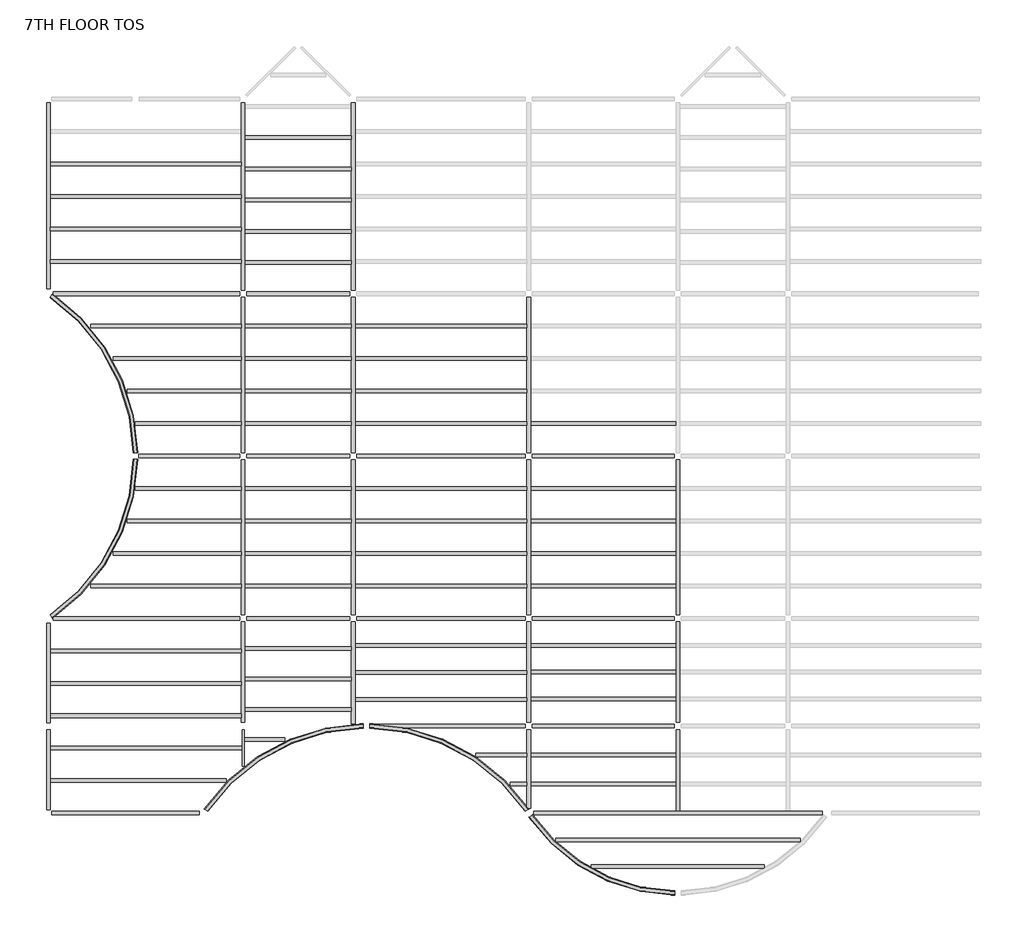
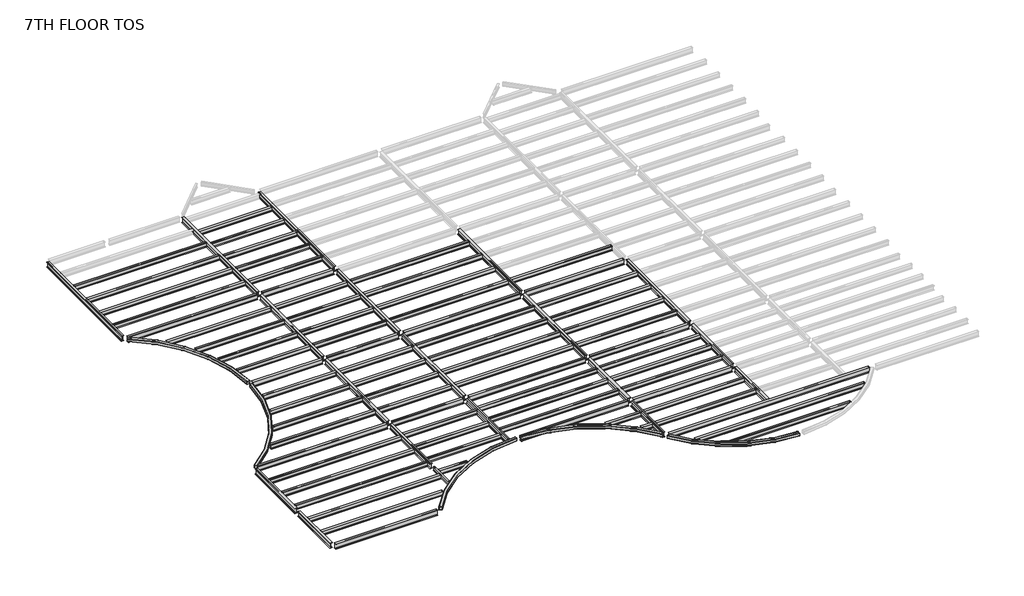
# One storey, part 1 of 2: 97 beams.
"""IFC4 building model written with IfcOpenShell, lengths in millimetres."""

from ifc_helpers import new_model, si_unit, origin, place, context, project, spatial, transform, mapped, element, save
from components import m_hss_square_hss203_2x203_2x9_5_914ff4eb, m_hss_square_hss203_2x203_2x9_5_0e3d8e6e, m_hss_square_hss203_2x203_2x9_5_16dc1c03, m_hss_square_hss203_2x203_2x9_5_18346204, m_hss_square_hss203_2x203_2x9_5_d5f1e8c4, ub_universal_beams_ub254x102x28_4e7f3726, ub_universal_beams_ub305x165x40_c4d0385b, ub_universal_beams_ub305x165x40_d3abc31d, ub_universal_beams_ub305x165x40_0c73730f, ub_universal_beams_ub305x165x40_2a963f0c, ub_universal_beams_ub305x165x40_0a5f2f96, ub_universal_beams_ub305x165x40_d1f7c369, ub_universal_beams_ub305x165x40_83d7b7d5, ub_universal_beams_ub305x165x40_729a4ea5, ub_universal_beams_ub305x165x40_71dfa851, ub_universal_beams_ub305x165x40_619b5398, ub_universal_beams_ub305x165x40_c3492db1, ub_universal_beams_ub305x165x40_8f1c350d, ub_universal_beams_ub305x165x40_3afb5f90, ub_universal_beams_ub305x165x40_767d1929, ub_universal_beams_ub305x165x40_5941ca45, ub_universal_beams_ub356x171x51_ef72dcdd, ub_universal_beams_ub356x171x51_7f80702c, ub_universal_beams_ub356x171x51_dfc36663, ub_universal_beams_ub356x171x51_405a853e, ub_universal_beams_ub356x171x51_e47b7055, ub_universal_beams_ub356x171x51_e97f8d2e, ub_universal_beams_ub356x171x51_11d6b780, ub_universal_beams_ub356x171x51_76b2d20b, ub_universal_beams_ub356x171x51_145ecd4b, ub_universal_beams_ub356x171x51_c7dff8d2, ub_universal_beams_ub356x171x51_834c6e34, ub_universal_beams_ub356x171x51_a38b99de, ub_universal_beams_ub356x171x51_d8f4cdde, ub_universal_beams_ub356x171x51_8094f821, ub_universal_beams_ub356x171x51_c03c70fb, ub_universal_beams_ub356x171x51_e661f2e4, ub_universal_beams_ub356x171x51_3ee91673, ub_universal_beams_ub356x171x51_a871b283, ub_universal_beams_ub356x171x51_741bae58

model = new_model("IFC4")

# Units and contexts
model_context = context("Model", 3, world=origin())
ifc_project = project(units=[si_unit("LENGTHUNIT", "METRE", prefix="MILLI")], contexts=[model_context])

# Site, building, storey
site = spatial("IfcSite", under=ifc_project)
building = spatial("IfcBuilding", under=site)
storey = spatial("IfcBuildingStorey", under=building, Name="7TH FLOOR TOS", Elevation=31851.6)

# Beams
placement = place(None, origin())
m_hss_square_hss203_2x203_2x9_5_shape = m_hss_square_hss203_2x203_2x9_5_914ff4eb(model_context)
element("IfcBeam", 1, ObjectType="M_HSS Square : HSS203.2X203.2X9.5", at=placement, inside=storey, context=model_context, shape_type="MappedRepresentation", body=[
    mapped(m_hss_square_hss203_2x203_2x9_5_shape, transform((22710.575, 155.575, 31750.1), x_axis=(-0.552849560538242, 0.8332810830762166, 0.0), y_axis=(-0.8332810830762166, -0.552849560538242, 0.0), z_axis=(0.0, 0.0, 1.0))),
])
m_hss_square_hss203_2x203_2x9_5_2_shape = m_hss_square_hss203_2x203_2x9_5_0e3d8e6e(model_context)
element("IfcBeam", 2, ObjectType="M_HSS Square : HSS203.2X203.2X9.5", at=placement, inside=storey, context=model_context, shape_type="MappedRepresentation", body=[
    mapped(m_hss_square_hss203_2x203_2x9_5_2_shape, transform((155.575, 9299.575, 31750.1), x_axis=(0.8332810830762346, 0.5528495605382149, 0.0), y_axis=(-0.5528495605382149, 0.8332810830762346, 0.0), z_axis=(0.0, 0.0, 1.0))),
])
m_hss_square_hss203_2x203_2x9_5_3_shape = m_hss_square_hss203_2x203_2x9_5_16dc1c03(model_context)
element("IfcBeam", 3, ObjectType="M_HSS Square : HSS203.2X203.2X9.5", at=placement, inside=storey, context=model_context, shape_type="MappedRepresentation", body=[
    mapped(m_hss_square_hss203_2x203_2x9_5_3_shape, transform((155.575, 24539.575, 31750.1), x_axis=(0.8332810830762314, -0.5528495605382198, 0.0), y_axis=(0.5528495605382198, 0.8332810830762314, 0.0), z_axis=(0.0, 0.0, 1.0))),
])
m_hss_square_hss203_2x203_2x9_5_4_shape = m_hss_square_hss203_2x203_2x9_5_18346204(model_context)
element("IfcBeam", 4, ObjectType="M_HSS Square : HSS203.2X203.2X9.5", at=placement, inside=storey, context=model_context, shape_type="MappedRepresentation", body=[
    mapped(m_hss_square_hss203_2x203_2x9_5_4_shape, transform((29734.7266693, -3601.398624, 31750.1), x_axis=(-0.9999968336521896, -0.0025164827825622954, 0.0), y_axis=(0.0025164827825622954, -0.9999968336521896, 0.0), z_axis=(0.0, 0.0, 1.0))),
])
m_hss_square_hss203_2x203_2x9_5_5_shape = m_hss_square_hss203_2x203_2x9_5_d5f1e8c4(model_context)
element("IfcBeam", 5, ObjectType="M_HSS Square : HSS203.2X203.2X9.5", at=placement, inside=storey, context=model_context, shape_type="MappedRepresentation", body=[
    mapped(m_hss_square_hss203_2x203_2x9_5_5_shape, transform((15096.4572854, 4244.5731081, 31750.1), x_axis=(-0.9999997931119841, 0.0006432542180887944, 0.0), y_axis=(-0.0006432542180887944, -0.9999997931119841, 0.0), z_axis=(0.0, 0.0, 1.0))),
])
ub_universal_beams_ub254x102x28_shape = ub_universal_beams_ub254x102x28_4e7f3726(model_context)
element("IfcBeam", 6, ObjectType="UB-Universal Beams : UB254x102x28", at=placement, inside=storey, context=model_context, shape_type="MappedRepresentation", body=[
    mapped(ub_universal_beams_ub254x102x28_shape, transform((9299.575, 3210.915913, 31721.4), x_axis=(0.0, -1.0, 0.0), y_axis=(1.0, 0.0, 0.0), z_axis=(0.0, 0.0, 1.0))),
])
ub_universal_beams_ub305x165x40_shape = ub_universal_beams_ub305x165x40_c4d0385b(model_context)
element("IfcBeam", 7, ObjectType="UB-Universal Beams : UB305x165x40", at=placement, inside=storey, context=model_context, shape_type="MappedRepresentation", body=[
    mapped(ub_universal_beams_ub305x165x40_shape, transform((4727.575, 30635.575, 31699.9), x_axis=(1.0, 0.0, 0.0), y_axis=(0.0, 1.0, 0.0), z_axis=(0.0, 0.0, 1.0))),
])
element("IfcBeam", 8, ObjectType="UB-Universal Beams : UB305x165x40", at=placement, inside=storey, context=model_context, shape_type="MappedRepresentation", body=[
    mapped(ub_universal_beams_ub305x165x40_shape, transform((4727.575, 29111.575, 31699.9), x_axis=(1.0, 0.0, 0.0), y_axis=(0.0, 1.0, 0.0), z_axis=(0.0, 0.0, 1.0))),
])
element("IfcBeam", 9, ObjectType="UB-Universal Beams : UB305x165x40", at=placement, inside=storey, context=model_context, shape_type="MappedRepresentation", body=[
    mapped(ub_universal_beams_ub305x165x40_shape, transform((4727.575, 27587.575, 31699.9), x_axis=(1.0, 0.0, 0.0), y_axis=(0.0, 1.0, 0.0), z_axis=(0.0, 0.0, 1.0))),
])
element("IfcBeam", 10, ObjectType="UB-Universal Beams : UB305x165x40", at=placement, inside=storey, context=model_context, shape_type="MappedRepresentation", body=[
    mapped(ub_universal_beams_ub305x165x40_shape, transform((4727.575, 26063.575, 31699.9), x_axis=(1.0, 0.0, 0.0), y_axis=(0.0, 1.0, 0.0), z_axis=(0.0, 0.0, 1.0))),
])
element("IfcBeam", 11, ObjectType="UB-Universal Beams : UB305x165x40", at=placement, inside=storey, context=model_context, shape_type="MappedRepresentation", body=[
    mapped(ub_universal_beams_ub305x165x40_shape, transform((4727.575, 4727.575, 31699.9), x_axis=(-1.0, 0.0, 0.0), y_axis=(0.0, -1.0, 0.0), z_axis=(0.0, 0.0, 1.0))),
])
element("IfcBeam", 12, ObjectType="UB-Universal Beams : UB305x165x40", at=placement, inside=storey, context=model_context, shape_type="MappedRepresentation", body=[
    mapped(ub_universal_beams_ub305x165x40_shape, transform((4727.575, 6251.575, 31699.9), x_axis=(-1.0, 0.0, 0.0), y_axis=(0.0, -1.0, 0.0), z_axis=(0.0, 0.0, 1.0))),
])
element("IfcBeam", 13, ObjectType="UB-Universal Beams : UB305x165x40", at=placement, inside=storey, context=model_context, shape_type="MappedRepresentation", body=[
    mapped(ub_universal_beams_ub305x165x40_shape, transform((4727.575, 7775.575, 31699.9), x_axis=(-1.0, 0.0, 0.0), y_axis=(0.0, -1.0, 0.0), z_axis=(0.0, 0.0, 1.0))),
])
ub_universal_beams_ub305x165x40_2_shape = ub_universal_beams_ub305x165x40_d3abc31d(model_context)
element("IfcBeam", 14, ObjectType="UB-Universal Beams : UB305x165x40", at=placement, inside=storey, context=model_context, shape_type="MappedRepresentation", body=[
    mapped(ub_universal_beams_ub305x165x40_2_shape, transform((11885.575, 31870.825, 31699.9), x_axis=(1.0, 0.0, 0.0), y_axis=(0.0, 1.0, 0.0), z_axis=(0.0, 0.0, 1.0))),
])
element("IfcBeam", 15, ObjectType="UB-Universal Beams : UB305x165x40", at=placement, inside=storey, context=model_context, shape_type="MappedRepresentation", body=[
    mapped(ub_universal_beams_ub305x165x40_2_shape, transform((11885.575, 30404.575, 31699.9), x_axis=(1.0, 0.0, 0.0), y_axis=(0.0, 1.0, 0.0), z_axis=(0.0, 0.0, 1.0))),
])
element("IfcBeam", 16, ObjectType="UB-Universal Beams : UB305x165x40", at=placement, inside=storey, context=model_context, shape_type="MappedRepresentation", body=[
    mapped(ub_universal_beams_ub305x165x40_2_shape, transform((11885.575, 28938.325, 31699.9), x_axis=(1.0, 0.0, 0.0), y_axis=(0.0, 1.0, 0.0), z_axis=(0.0, 0.0, 1.0))),
])
element("IfcBeam", 17, ObjectType="UB-Universal Beams : UB305x165x40", at=placement, inside=storey, context=model_context, shape_type="MappedRepresentation", body=[
    mapped(ub_universal_beams_ub305x165x40_2_shape, transform((11885.575, 27472.075, 31699.9), x_axis=(1.0, 0.0, 0.0), y_axis=(0.0, 1.0, 0.0), z_axis=(0.0, 0.0, 1.0))),
])
element("IfcBeam", 18, ObjectType="UB-Universal Beams : UB305x165x40", at=placement, inside=storey, context=model_context, shape_type="MappedRepresentation", body=[
    mapped(ub_universal_beams_ub305x165x40_2_shape, transform((11885.575, 26005.825, 31699.9), x_axis=(1.0, 0.0, 0.0), y_axis=(0.0, 1.0, 0.0), z_axis=(0.0, 0.0, 1.0))),
])
element("IfcBeam", 19, ObjectType="UB-Universal Beams : UB305x165x40", at=placement, inside=storey, context=model_context, shape_type="MappedRepresentation", body=[
    mapped(ub_universal_beams_ub305x165x40_2_shape, transform((11885.575, 23015.575, 31699.9), x_axis=(1.0, 0.0, 0.0), y_axis=(0.0, 1.0, 0.0), z_axis=(0.0, 0.0, 1.0))),
])
element("IfcBeam", 20, ObjectType="UB-Universal Beams : UB305x165x40", at=placement, inside=storey, context=model_context, shape_type="MappedRepresentation", body=[
    mapped(ub_universal_beams_ub305x165x40_2_shape, transform((11885.575, 21491.575, 31699.9), x_axis=(1.0, 0.0, 0.0), y_axis=(0.0, 1.0, 0.0), z_axis=(0.0, 0.0, 1.0))),
])
element("IfcBeam", 21, ObjectType="UB-Universal Beams : UB305x165x40", at=placement, inside=storey, context=model_context, shape_type="MappedRepresentation", body=[
    mapped(ub_universal_beams_ub305x165x40_2_shape, transform((11885.575, 19967.575, 31699.9), x_axis=(1.0, 0.0, 0.0), y_axis=(0.0, 1.0, 0.0), z_axis=(0.0, 0.0, 1.0))),
])
element("IfcBeam", 22, ObjectType="UB-Universal Beams : UB305x165x40", at=placement, inside=storey, context=model_context, shape_type="MappedRepresentation", body=[
    mapped(ub_universal_beams_ub305x165x40_2_shape, transform((11885.575, 18443.575, 31699.9), x_axis=(1.0, 0.0, 0.0), y_axis=(0.0, 1.0, 0.0), z_axis=(0.0, 0.0, 1.0))),
])
element("IfcBeam", 23, ObjectType="UB-Universal Beams : UB305x165x40", at=placement, inside=storey, context=model_context, shape_type="MappedRepresentation", body=[
    mapped(ub_universal_beams_ub305x165x40_2_shape, transform((11885.575, 15395.575, 31699.9), x_axis=(1.0, 0.0, 0.0), y_axis=(0.0, 1.0, 0.0), z_axis=(0.0, 0.0, 1.0))),
])
element("IfcBeam", 24, ObjectType="UB-Universal Beams : UB305x165x40", at=placement, inside=storey, context=model_context, shape_type="MappedRepresentation", body=[
    mapped(ub_universal_beams_ub305x165x40_2_shape, transform((11885.575, 13871.575, 31699.9), x_axis=(1.0, 0.0, 0.0), y_axis=(0.0, 1.0, 0.0), z_axis=(0.0, 0.0, 1.0))),
])
element("IfcBeam", 25, ObjectType="UB-Universal Beams : UB305x165x40", at=placement, inside=storey, context=model_context, shape_type="MappedRepresentation", body=[
    mapped(ub_universal_beams_ub305x165x40_2_shape, transform((11885.575, 12347.575, 31699.9), x_axis=(1.0, 0.0, 0.0), y_axis=(0.0, 1.0, 0.0), z_axis=(0.0, 0.0, 1.0))),
])
element("IfcBeam", 26, ObjectType="UB-Universal Beams : UB305x165x40", at=placement, inside=storey, context=model_context, shape_type="MappedRepresentation", body=[
    mapped(ub_universal_beams_ub305x165x40_2_shape, transform((11885.575, 10823.575, 31699.9), x_axis=(1.0, 0.0, 0.0), y_axis=(0.0, 1.0, 0.0), z_axis=(0.0, 0.0, 1.0))),
])
element("IfcBeam", 27, ObjectType="UB-Universal Beams : UB305x165x40", at=placement, inside=storey, context=model_context, shape_type="MappedRepresentation", body=[
    mapped(ub_universal_beams_ub305x165x40_2_shape, transform((11885.575, 5026.1840956, 31699.9), x_axis=(-1.0, 0.0, 0.0), y_axis=(0.0, -1.0, 0.0), z_axis=(0.0, 0.0, 1.0))),
])
element("IfcBeam", 28, ObjectType="UB-Universal Beams : UB305x165x40", at=placement, inside=storey, context=model_context, shape_type="MappedRepresentation", body=[
    mapped(ub_universal_beams_ub305x165x40_2_shape, transform((11885.575, 6450.6477304, 31699.9), x_axis=(-1.0, 0.0, 0.0), y_axis=(0.0, -1.0, 0.0), z_axis=(0.0, 0.0, 1.0))),
])
element("IfcBeam", 29, ObjectType="UB-Universal Beams : UB305x165x40", at=placement, inside=storey, context=model_context, shape_type="MappedRepresentation", body=[
    mapped(ub_universal_beams_ub305x165x40_2_shape, transform((11885.575, 7875.1113652, 31699.9), x_axis=(-1.0, 0.0, 0.0), y_axis=(0.0, -1.0, 0.0), z_axis=(0.0, 0.0, 1.0))),
])
ub_universal_beams_ub305x165x40_3_shape = ub_universal_beams_ub305x165x40_0c73730f(model_context)
element("IfcBeam", 30, ObjectType="UB-Universal Beams : UB305x165x40", at=placement, inside=storey, context=model_context, shape_type="MappedRepresentation", body=[
    mapped(ub_universal_beams_ub305x165x40_3_shape, transform((18591.075, 5492.5943214, 31699.9), x_axis=(-1.0, 0.0, 0.0), y_axis=(0.0, -1.0, 0.0), z_axis=(0.0, 0.0, 1.0))),
])
element("IfcBeam", 31, ObjectType="UB-Universal Beams : UB305x165x40", at=placement, inside=storey, context=model_context, shape_type="MappedRepresentation", body=[
    mapped(ub_universal_beams_ub305x165x40_3_shape, transform((18591.075, 6761.5878809, 31699.9), x_axis=(-1.0, 0.0, 0.0), y_axis=(0.0, -1.0, 0.0), z_axis=(0.0, 0.0, 1.0))),
])
element("IfcBeam", 32, ObjectType="UB-Universal Beams : UB305x165x40", at=placement, inside=storey, context=model_context, shape_type="MappedRepresentation", body=[
    mapped(ub_universal_beams_ub305x165x40_3_shape, transform((18591.075, 8030.5814405, 31699.9), x_axis=(-1.0, 0.0, 0.0), y_axis=(0.0, -1.0, 0.0), z_axis=(0.0, 0.0, 1.0))),
])
element("IfcBeam", 33, ObjectType="UB-Universal Beams : UB305x165x40", at=placement, inside=storey, context=model_context, shape_type="MappedRepresentation", body=[
    mapped(ub_universal_beams_ub305x165x40_3_shape, transform((18591.075, 15395.575, 31699.9), x_axis=(1.0, 0.0, 0.0), y_axis=(0.0, 1.0, 0.0), z_axis=(0.0, 0.0, 1.0))),
])
element("IfcBeam", 34, ObjectType="UB-Universal Beams : UB305x165x40", at=placement, inside=storey, context=model_context, shape_type="MappedRepresentation", body=[
    mapped(ub_universal_beams_ub305x165x40_3_shape, transform((18591.075, 13871.575, 31699.9), x_axis=(1.0, 0.0, 0.0), y_axis=(0.0, 1.0, 0.0), z_axis=(0.0, 0.0, 1.0))),
])
element("IfcBeam", 35, ObjectType="UB-Universal Beams : UB305x165x40", at=placement, inside=storey, context=model_context, shape_type="MappedRepresentation", body=[
    mapped(ub_universal_beams_ub305x165x40_3_shape, transform((18591.075, 12347.575, 31699.9), x_axis=(1.0, 0.0, 0.0), y_axis=(0.0, 1.0, 0.0), z_axis=(0.0, 0.0, 1.0))),
])
element("IfcBeam", 36, ObjectType="UB-Universal Beams : UB305x165x40", at=placement, inside=storey, context=model_context, shape_type="MappedRepresentation", body=[
    mapped(ub_universal_beams_ub305x165x40_3_shape, transform((18591.075, 10823.575, 31699.9), x_axis=(1.0, 0.0, 0.0), y_axis=(0.0, 1.0, 0.0), z_axis=(0.0, 0.0, 1.0))),
])
element("IfcBeam", 37, ObjectType="UB-Universal Beams : UB305x165x40", at=placement, inside=storey, context=model_context, shape_type="MappedRepresentation", body=[
    mapped(ub_universal_beams_ub305x165x40_3_shape, transform((18591.075, 23015.575, 31699.9), x_axis=(1.0, 0.0, 0.0), y_axis=(0.0, 1.0, 0.0), z_axis=(0.0, 0.0, 1.0))),
])
element("IfcBeam", 38, ObjectType="UB-Universal Beams : UB305x165x40", at=placement, inside=storey, context=model_context, shape_type="MappedRepresentation", body=[
    mapped(ub_universal_beams_ub305x165x40_3_shape, transform((18591.075, 21491.575, 31699.9), x_axis=(1.0, 0.0, 0.0), y_axis=(0.0, 1.0, 0.0), z_axis=(0.0, 0.0, 1.0))),
])
element("IfcBeam", 39, ObjectType="UB-Universal Beams : UB305x165x40", at=placement, inside=storey, context=model_context, shape_type="MappedRepresentation", body=[
    mapped(ub_universal_beams_ub305x165x40_3_shape, transform((18591.075, 19967.575, 31699.9), x_axis=(1.0, 0.0, 0.0), y_axis=(0.0, 1.0, 0.0), z_axis=(0.0, 0.0, 1.0))),
])
element("IfcBeam", 40, ObjectType="UB-Universal Beams : UB305x165x40", at=placement, inside=storey, context=model_context, shape_type="MappedRepresentation", body=[
    mapped(ub_universal_beams_ub305x165x40_3_shape, transform((18591.075, 18443.575, 31699.9), x_axis=(1.0, 0.0, 0.0), y_axis=(0.0, 1.0, 0.0), z_axis=(0.0, 0.0, 1.0))),
])
ub_universal_beams_ub305x165x40_4_shape = ub_universal_beams_ub305x165x40_2a963f0c(model_context)
element("IfcBeam", 41, ObjectType="UB-Universal Beams : UB305x165x40", at=placement, inside=storey, context=model_context, shape_type="MappedRepresentation", body=[
    mapped(ub_universal_beams_ub305x165x40_4_shape, transform((26211.075, 18443.575, 31699.9), x_axis=(1.0, 0.0, 0.0), y_axis=(0.0, 1.0, 0.0), z_axis=(0.0, 0.0, 1.0))),
])
element("IfcBeam", 42, ObjectType="UB-Universal Beams : UB305x165x40", at=placement, inside=storey, context=model_context, shape_type="MappedRepresentation", body=[
    mapped(ub_universal_beams_ub305x165x40_4_shape, transform((26211.075, 15395.575, 31699.9), x_axis=(1.0, 0.0, 0.0), y_axis=(0.0, 1.0, 0.0), z_axis=(0.0, 0.0, 1.0))),
])
element("IfcBeam", 43, ObjectType="UB-Universal Beams : UB305x165x40", at=placement, inside=storey, context=model_context, shape_type="MappedRepresentation", body=[
    mapped(ub_universal_beams_ub305x165x40_4_shape, transform((26211.075, 13871.575, 31699.9), x_axis=(1.0, 0.0, 0.0), y_axis=(0.0, 1.0, 0.0), z_axis=(0.0, 0.0, 1.0))),
])
element("IfcBeam", 44, ObjectType="UB-Universal Beams : UB305x165x40", at=placement, inside=storey, context=model_context, shape_type="MappedRepresentation", body=[
    mapped(ub_universal_beams_ub305x165x40_4_shape, transform((26211.075, 12347.575, 31699.9), x_axis=(1.0, 0.0, 0.0), y_axis=(0.0, 1.0, 0.0), z_axis=(0.0, 0.0, 1.0))),
])
element("IfcBeam", 45, ObjectType="UB-Universal Beams : UB305x165x40", at=placement, inside=storey, context=model_context, shape_type="MappedRepresentation", body=[
    mapped(ub_universal_beams_ub305x165x40_4_shape, transform((26211.075, 10823.575, 31699.9), x_axis=(1.0, 0.0, 0.0), y_axis=(0.0, 1.0, 0.0), z_axis=(0.0, 0.0, 1.0))),
])
element("IfcBeam", 46, ObjectType="UB-Universal Beams : UB305x165x40", at=placement, inside=storey, context=model_context, shape_type="MappedRepresentation", body=[
    mapped(ub_universal_beams_ub305x165x40_4_shape, transform((26211.075, 5508.325, 31699.9), x_axis=(-1.0, 0.0, 0.0), y_axis=(0.0, -1.0, 0.0), z_axis=(0.0, 0.0, 1.0))),
])
element("IfcBeam", 47, ObjectType="UB-Universal Beams : UB305x165x40", at=placement, inside=storey, context=model_context, shape_type="MappedRepresentation", body=[
    mapped(ub_universal_beams_ub305x165x40_4_shape, transform((26211.075, 6772.075, 31699.9), x_axis=(-1.0, 0.0, 0.0), y_axis=(0.0, -1.0, 0.0), z_axis=(0.0, 0.0, 1.0))),
])
element("IfcBeam", 48, ObjectType="UB-Universal Beams : UB305x165x40", at=placement, inside=storey, context=model_context, shape_type="MappedRepresentation", body=[
    mapped(ub_universal_beams_ub305x165x40_4_shape, transform((26211.075, 8035.825, 31699.9), x_axis=(-1.0, 0.0, 0.0), y_axis=(0.0, -1.0, 0.0), z_axis=(0.0, 0.0, 1.0))),
])
element("IfcBeam", 49, ObjectType="UB-Universal Beams : UB305x165x40", at=placement, inside=storey, context=model_context, shape_type="MappedRepresentation", body=[
    mapped(ub_universal_beams_ub305x165x40_4_shape, transform((26211.075, 1518.575, 31699.9), x_axis=(-1.0, 0.0, 0.0), y_axis=(0.0, -1.0, 0.0), z_axis=(0.0, 0.0, 1.0))),
])
element("IfcBeam", 50, ObjectType="UB-Universal Beams : UB305x165x40", at=placement, inside=storey, context=model_context, shape_type="MappedRepresentation", body=[
    mapped(ub_universal_beams_ub305x165x40_4_shape, transform((26211.075, 2881.575, 31699.9), x_axis=(-1.0, 0.0, 0.0), y_axis=(0.0, -1.0, 0.0), z_axis=(0.0, 0.0, 1.0))),
])
ub_universal_beams_ub305x165x40_5_shape = ub_universal_beams_ub305x165x40_0a5f2f96(model_context)
element("IfcBeam", 51, ObjectType="UB-Universal Beams : UB305x165x40", at=placement, inside=storey, context=model_context, shape_type="MappedRepresentation", body=[
    mapped(ub_universal_beams_ub305x165x40_5_shape, transform((29713.575, -2349.0918253, 31699.9), x_axis=(-1.0, 0.0, 0.0), y_axis=(0.0, -1.0, 0.0), z_axis=(0.0, 0.0, 1.0))),
])
ub_universal_beams_ub305x165x40_6_shape = ub_universal_beams_ub305x165x40_d1f7c369(model_context)
element("IfcBeam", 52, ObjectType="UB-Universal Beams : UB305x165x40", at=placement, inside=storey, context=model_context, shape_type="MappedRepresentation", body=[
    mapped(ub_universal_beams_ub305x165x40_6_shape, transform((29713.575, -1096.7584126, 31699.9), x_axis=(-1.0, 0.0, 0.0), y_axis=(0.0, -1.0, 0.0), z_axis=(0.0, 0.0, 1.0))),
])
ub_universal_beams_ub305x165x40_7_shape = ub_universal_beams_ub305x165x40_83d7b7d5(model_context)
element("IfcBeam", 53, ObjectType="UB-Universal Beams : UB305x165x40", at=placement, inside=storey, context=model_context, shape_type="MappedRepresentation", body=[
    mapped(ub_universal_beams_ub305x165x40_7_shape, transform((22157.3041106, 1518.575, 31699.9), x_axis=(-1.0, 0.0, 0.0), y_axis=(0.0, -1.0, 0.0), z_axis=(0.0, 0.0, 1.0))),
])
ub_universal_beams_ub305x165x40_8_shape = ub_universal_beams_ub305x165x40_729a4ea5(model_context)
element("IfcBeam", 54, ObjectType="UB-Universal Beams : UB305x165x40", at=placement, inside=storey, context=model_context, shape_type="MappedRepresentation", body=[
    mapped(ub_universal_beams_ub305x165x40_8_shape, transform((21302.1545844, 2881.575, 31699.9), x_axis=(-1.0, 0.0, 0.0), y_axis=(0.0, -1.0, 0.0), z_axis=(0.0, 0.0, 1.0))),
])
ub_universal_beams_ub305x165x40_9_shape = ub_universal_beams_ub305x165x40_71dfa851(model_context)
element("IfcBeam", 55, ObjectType="UB-Universal Beams : UB305x165x40", at=placement, inside=storey, context=model_context, shape_type="MappedRepresentation", body=[
    mapped(ub_universal_beams_ub305x165x40_9_shape, transform((10511.0323166, 3601.7204608, 31699.9), x_axis=(-1.0, 0.0, 0.0), y_axis=(0.0, -1.0, 0.0), z_axis=(0.0, 0.0, 1.0))),
])
ub_universal_beams_ub305x165x40_10_shape = ub_universal_beams_ub305x165x40_619b5398(model_context)
element("IfcBeam", 56, ObjectType="UB-Universal Beams : UB305x165x40", at=placement, inside=storey, context=model_context, shape_type="MappedRepresentation", body=[
    mapped(ub_universal_beams_ub305x165x40_10_shape, transform((4447.6838282, 1679.575, 31699.9), x_axis=(-1.0, 0.0, 0.0), y_axis=(0.0, -1.0, 0.0), z_axis=(0.0, 0.0, 1.0))),
])
ub_universal_beams_ub305x165x40_11_shape = ub_universal_beams_ub305x165x40_c3492db1(model_context)
element("IfcBeam", 57, ObjectType="UB-Universal Beams : UB305x165x40", at=placement, inside=storey, context=model_context, shape_type="MappedRepresentation", body=[
    mapped(ub_universal_beams_ub305x165x40_11_shape, transform((4727.575, 3203.575, 31699.9), x_axis=(-1.0, 0.0, 0.0), y_axis=(0.0, -1.0, 0.0), z_axis=(0.0, 0.0, 1.0))),
])
ub_universal_beams_ub305x165x40_12_shape = ub_universal_beams_ub305x165x40_8f1c350d(model_context)
element("IfcBeam", 58, ObjectType="UB-Universal Beams : UB305x165x40", at=placement, inside=storey, context=model_context, shape_type="MappedRepresentation", body=[
    mapped(ub_universal_beams_ub305x165x40_12_shape, transform((6708.1318611, 15395.575, 31699.9), x_axis=(1.0, 0.0, 0.0), y_axis=(0.0, 1.0, 0.0), z_axis=(0.0, 0.0, 1.0))),
])
element("IfcBeam", 59, ObjectType="UB-Universal Beams : UB305x165x40", at=placement, inside=storey, context=model_context, shape_type="MappedRepresentation", body=[
    mapped(ub_universal_beams_ub305x165x40_12_shape, transform((6708.1318611, 18443.575, 31699.9), x_axis=(1.0, 0.0, 0.0), y_axis=(0.0, 1.0, 0.0), z_axis=(0.0, 0.0, 1.0))),
])
ub_universal_beams_ub305x165x40_13_shape = ub_universal_beams_ub305x165x40_3afb5f90(model_context)
element("IfcBeam", 60, ObjectType="UB-Universal Beams : UB305x165x40", at=placement, inside=storey, context=model_context, shape_type="MappedRepresentation", body=[
    mapped(ub_universal_beams_ub305x165x40_13_shape, transform((6510.6153272, 13871.575, 31699.9), x_axis=(1.0, 0.0, 0.0), y_axis=(0.0, 1.0, 0.0), z_axis=(0.0, 0.0, 1.0))),
])
element("IfcBeam", 61, ObjectType="UB-Universal Beams : UB305x165x40", at=placement, inside=storey, context=model_context, shape_type="MappedRepresentation", body=[
    mapped(ub_universal_beams_ub305x165x40_13_shape, transform((6510.6153272, 19967.575, 31699.9), x_axis=(1.0, 0.0, 0.0), y_axis=(0.0, 1.0, 0.0), z_axis=(0.0, 0.0, 1.0))),
])
ub_universal_beams_ub305x165x40_14_shape = ub_universal_beams_ub305x165x40_767d1929(model_context)
element("IfcBeam", 62, ObjectType="UB-Universal Beams : UB305x165x40", at=placement, inside=storey, context=model_context, shape_type="MappedRepresentation", body=[
    mapped(ub_universal_beams_ub305x165x40_14_shape, transform((6159.5874928, 12347.575, 31699.9), x_axis=(1.0, 0.0, 0.0), y_axis=(0.0, 1.0, 0.0), z_axis=(0.0, 0.0, 1.0))),
])
element("IfcBeam", 63, ObjectType="UB-Universal Beams : UB305x165x40", at=placement, inside=storey, context=model_context, shape_type="MappedRepresentation", body=[
    mapped(ub_universal_beams_ub305x165x40_14_shape, transform((6159.5874928, 21491.575, 31699.9), x_axis=(1.0, 0.0, 0.0), y_axis=(0.0, 1.0, 0.0), z_axis=(0.0, 0.0, 1.0))),
])
ub_universal_beams_ub305x165x40_15_shape = ub_universal_beams_ub305x165x40_5941ca45(model_context)
element("IfcBeam", 64, ObjectType="UB-Universal Beams : UB305x165x40", at=placement, inside=storey, context=model_context, shape_type="MappedRepresentation", body=[
    mapped(ub_universal_beams_ub305x165x40_15_shape, transform((5607.9405309, 10823.575, 31699.9), x_axis=(1.0, 0.0, 0.0), y_axis=(0.0, 1.0, 0.0), z_axis=(0.0, 0.0, 1.0))),
])
element("IfcBeam", 65, ObjectType="UB-Universal Beams : UB305x165x40", at=placement, inside=storey, context=model_context, shape_type="MappedRepresentation", body=[
    mapped(ub_universal_beams_ub305x165x40_15_shape, transform((5607.9405309, 23015.575, 31699.9), x_axis=(1.0, 0.0, 0.0), y_axis=(0.0, 1.0, 0.0), z_axis=(0.0, 0.0, 1.0))),
])
ub_universal_beams_ub356x171x51_shape = ub_universal_beams_ub356x171x51_ef72dcdd(model_context)
element("IfcBeam", 66, ObjectType="UB-Universal Beams : UB356x171x51", at=placement, inside=storey, context=model_context, shape_type="MappedRepresentation", body=[
    mapped(ub_universal_beams_ub356x171x51_shape, transform((9299.575, 6772.075, 31674.1), x_axis=(0.0, -1.0, 0.0), y_axis=(1.0, 0.0, 0.0), z_axis=(0.0, 0.0, 1.0))),
])
element("IfcBeam", 67, ObjectType="UB-Universal Beams : UB356x171x51", at=placement, inside=storey, context=model_context, shape_type="MappedRepresentation", body=[
    mapped(ub_universal_beams_ub356x171x51_shape, transform((29711.575, 6772.075, 31674.1), x_axis=(0.0, 1.0, 0.0), y_axis=(-1.0, 0.0, 0.0), z_axis=(0.0, 0.0, 1.0))),
])
element("IfcBeam", 68, ObjectType="UB-Universal Beams : UB356x171x51", at=placement, inside=storey, context=model_context, shape_type="MappedRepresentation", body=[
    mapped(ub_universal_beams_ub356x171x51_shape, transform((22710.575, 6772.075, 31674.1), x_axis=(0.0, -1.0, 0.0), y_axis=(1.0, 0.0, 0.0), z_axis=(0.0, 0.0, 1.0))),
])
ub_universal_beams_ub356x171x51_2_shape = ub_universal_beams_ub356x171x51_7f80702c(model_context)
element("IfcBeam", 69, ObjectType="UB-Universal Beams : UB356x171x51", at=placement, inside=storey, context=model_context, shape_type="MappedRepresentation", body=[
    mapped(ub_universal_beams_ub356x171x51_2_shape, transform((3813.075, 155.575, 31674.1), x_axis=(-1.0, 0.0, 0.0), y_axis=(0.0, -1.0, 0.0), z_axis=(0.0, 0.0, 1.0))),
])
ub_universal_beams_ub356x171x51_3_shape = ub_universal_beams_ub356x171x51_dfc36663(model_context)
element("IfcBeam", 70, ObjectType="UB-Universal Beams : UB356x171x51", at=placement, inside=storey, context=model_context, shape_type="MappedRepresentation", body=[
    mapped(ub_universal_beams_ub356x171x51_3_shape, transform((155.575, 2200.075, 31674.1), x_axis=(0.0, 1.0, 0.0), y_axis=(-1.0, 0.0, 0.0), z_axis=(0.0, 0.0, 1.0))),
])
ub_universal_beams_ub356x171x51_4_shape = ub_universal_beams_ub356x171x51_405a853e(model_context)
element("IfcBeam", 71, ObjectType="UB-Universal Beams : UB356x171x51", at=placement, inside=storey, context=model_context, shape_type="MappedRepresentation", body=[
    mapped(ub_universal_beams_ub356x171x51_4_shape, transform((155.575, 6772.075, 31674.1), x_axis=(0.0, 1.0, 0.0), y_axis=(-1.0, 0.0, 0.0), z_axis=(0.0, 0.0, 1.0))),
])
ub_universal_beams_ub356x171x51_5_shape = ub_universal_beams_ub356x171x51_e47b7055(model_context)
element("IfcBeam", 72, ObjectType="UB-Universal Beams : UB356x171x51", at=placement, inside=storey, context=model_context, shape_type="MappedRepresentation", body=[
    mapped(ub_universal_beams_ub356x171x51_5_shape, transform((155.575, 29111.575, 31674.1), x_axis=(0.0, 1.0, 0.0), y_axis=(-1.0, 0.0, 0.0), z_axis=(0.0, 0.0, 1.0))),
])
ub_universal_beams_ub356x171x51_6_shape = ub_universal_beams_ub356x171x51_e97f8d2e(model_context)
element("IfcBeam", 73, ObjectType="UB-Universal Beams : UB356x171x51", at=placement, inside=storey, context=model_context, shape_type="MappedRepresentation", body=[
    mapped(ub_universal_beams_ub356x171x51_6_shape, transform((4727.575, 24539.575, 31674.1), x_axis=(1.0, 0.0, 0.0), y_axis=(0.0, 1.0, 0.0), z_axis=(0.0, 0.0, 1.0))),
])
ub_universal_beams_ub356x171x51_7_shape = ub_universal_beams_ub356x171x51_11d6b780(model_context)
element("IfcBeam", 74, ObjectType="UB-Universal Beams : UB356x171x51", at=placement, inside=storey, context=model_context, shape_type="MappedRepresentation", body=[
    mapped(ub_universal_beams_ub356x171x51_7_shape, transform((11885.575, 24539.575, 31674.1), x_axis=(1.0, 0.0, 0.0), y_axis=(0.0, 1.0, 0.0), z_axis=(0.0, 0.0, 1.0))),
])
element("IfcBeam", 75, ObjectType="UB-Universal Beams : UB356x171x51", at=placement, inside=storey, context=model_context, shape_type="MappedRepresentation", body=[
    mapped(ub_universal_beams_ub356x171x51_7_shape, transform((11885.575, 9299.575, 31674.1), x_axis=(-1.0, 0.0, 0.0), y_axis=(0.0, -1.0, 0.0), z_axis=(0.0, 0.0, 1.0))),
])
element("IfcBeam", 76, ObjectType="UB-Universal Beams : UB356x171x51", at=placement, inside=storey, context=model_context, shape_type="MappedRepresentation", body=[
    mapped(ub_universal_beams_ub356x171x51_7_shape, transform((11885.575, 16919.575, 31674.1), x_axis=(1.0, 0.0, 0.0), y_axis=(0.0, 1.0, 0.0), z_axis=(0.0, 0.0, 1.0))),
])
ub_universal_beams_ub356x171x51_8_shape = ub_universal_beams_ub356x171x51_76b2d20b(model_context)
element("IfcBeam", 77, ObjectType="UB-Universal Beams : UB356x171x51", at=placement, inside=storey, context=model_context, shape_type="MappedRepresentation", body=[
    mapped(ub_universal_beams_ub356x171x51_8_shape, transform((18591.075, 9299.575, 31674.1), x_axis=(-1.0, 0.0, 0.0), y_axis=(0.0, -1.0, 0.0), z_axis=(0.0, 0.0, 1.0))),
])
element("IfcBeam", 78, ObjectType="UB-Universal Beams : UB356x171x51", at=placement, inside=storey, context=model_context, shape_type="MappedRepresentation", body=[
    mapped(ub_universal_beams_ub356x171x51_8_shape, transform((18591.075, 16919.575, 31674.1), x_axis=(1.0, 0.0, 0.0), y_axis=(0.0, 1.0, 0.0), z_axis=(0.0, 0.0, 1.0))),
])
ub_universal_beams_ub356x171x51_9_shape = ub_universal_beams_ub356x171x51_145ecd4b(model_context)
element("IfcBeam", 79, ObjectType="UB-Universal Beams : UB356x171x51", at=placement, inside=storey, context=model_context, shape_type="MappedRepresentation", body=[
    mapped(ub_universal_beams_ub356x171x51_9_shape, transform((26211.075, 9299.575, 31674.1), x_axis=(-1.0, 0.0, 0.0), y_axis=(0.0, -1.0, 0.0), z_axis=(0.0, 0.0, 1.0))),
])
element("IfcBeam", 80, ObjectType="UB-Universal Beams : UB356x171x51", at=placement, inside=storey, context=model_context, shape_type="MappedRepresentation", body=[
    mapped(ub_universal_beams_ub356x171x51_9_shape, transform((26211.075, 16919.575, 31674.1), x_axis=(1.0, 0.0, 0.0), y_axis=(0.0, 1.0, 0.0), z_axis=(0.0, 0.0, 1.0))),
])
element("IfcBeam", 81, ObjectType="UB-Universal Beams : UB356x171x51", at=placement, inside=storey, context=model_context, shape_type="MappedRepresentation", body=[
    mapped(ub_universal_beams_ub356x171x51_9_shape, transform((26211.075, 4244.575, 31674.1), x_axis=(-1.0, 0.0, 0.0), y_axis=(0.0, -1.0, 0.0), z_axis=(0.0, 0.0, 1.0))),
])
ub_universal_beams_ub356x171x51_10_shape = ub_universal_beams_ub356x171x51_c7dff8d2(model_context)
element("IfcBeam", 82, ObjectType="UB-Universal Beams : UB356x171x51", at=placement, inside=storey, context=model_context, shape_type="MappedRepresentation", body=[
    mapped(ub_universal_beams_ub356x171x51_10_shape, transform((4727.575, 9299.575, 31674.1), x_axis=(-1.0, 0.0, 0.0), y_axis=(0.0, -1.0, 0.0), z_axis=(0.0, 0.0, 1.0))),
])
ub_universal_beams_ub356x171x51_11_shape = ub_universal_beams_ub356x171x51_834c6e34(model_context)
element("IfcBeam", 83, ObjectType="UB-Universal Beams : UB356x171x51", at=placement, inside=storey, context=model_context, shape_type="MappedRepresentation", body=[
    mapped(ub_universal_beams_ub356x171x51_11_shape, transform((14471.575, 6761.5878809, 31674.1), x_axis=(0.0, -1.0, 0.0), y_axis=(1.0, 0.0, 0.0), z_axis=(0.0, 0.0, 1.0))),
])
ub_universal_beams_ub356x171x51_12_shape = ub_universal_beams_ub356x171x51_a38b99de(model_context)
element("IfcBeam", 84, ObjectType="UB-Universal Beams : UB356x171x51", at=placement, inside=storey, context=model_context, shape_type="MappedRepresentation", body=[
    mapped(ub_universal_beams_ub356x171x51_12_shape, transform((9299.575, 13109.575, 31674.1), x_axis=(0.0, 1.0, 0.0), y_axis=(-1.0, 0.0, 0.0), z_axis=(0.0, 0.0, 1.0))),
])
element("IfcBeam", 85, ObjectType="UB-Universal Beams : UB356x171x51", at=placement, inside=storey, context=model_context, shape_type="MappedRepresentation", body=[
    mapped(ub_universal_beams_ub356x171x51_12_shape, transform((9299.575, 20729.575, 31674.1), x_axis=(0.0, 1.0, 0.0), y_axis=(-1.0, 0.0, 0.0), z_axis=(0.0, 0.0, 1.0))),
])
element("IfcBeam", 86, ObjectType="UB-Universal Beams : UB356x171x51", at=placement, inside=storey, context=model_context, shape_type="MappedRepresentation", body=[
    mapped(ub_universal_beams_ub356x171x51_12_shape, transform((14471.575, 20729.575, 31674.1), x_axis=(0.0, -1.0, 0.0), y_axis=(1.0, 0.0, 0.0), z_axis=(0.0, 0.0, 1.0))),
])
element("IfcBeam", 87, ObjectType="UB-Universal Beams : UB356x171x51", at=placement, inside=storey, context=model_context, shape_type="MappedRepresentation", body=[
    mapped(ub_universal_beams_ub356x171x51_12_shape, transform((14471.575, 13109.575, 31674.1), x_axis=(0.0, -1.0, 0.0), y_axis=(1.0, 0.0, 0.0), z_axis=(0.0, 0.0, 1.0))),
])
element("IfcBeam", 88, ObjectType="UB-Universal Beams : UB356x171x51", at=placement, inside=storey, context=model_context, shape_type="MappedRepresentation", body=[
    mapped(ub_universal_beams_ub356x171x51_12_shape, transform((22710.575, 20729.575, 31674.1), x_axis=(0.0, -1.0, 0.0), y_axis=(1.0, 0.0, 0.0), z_axis=(0.0, 0.0, 1.0))),
])
element("IfcBeam", 89, ObjectType="UB-Universal Beams : UB356x171x51", at=placement, inside=storey, context=model_context, shape_type="MappedRepresentation", body=[
    mapped(ub_universal_beams_ub356x171x51_12_shape, transform((22710.575, 13109.575, 31674.1), x_axis=(0.0, -1.0, 0.0), y_axis=(1.0, 0.0, 0.0), z_axis=(0.0, 0.0, 1.0))),
])
element("IfcBeam", 90, ObjectType="UB-Universal Beams : UB356x171x51", at=placement, inside=storey, context=model_context, shape_type="MappedRepresentation", body=[
    mapped(ub_universal_beams_ub356x171x51_12_shape, transform((29711.575, 13109.575, 31674.1), x_axis=(0.0, 1.0, 0.0), y_axis=(-1.0, 0.0, 0.0), z_axis=(0.0, 0.0, 1.0))),
])
ub_universal_beams_ub356x171x51_13_shape = ub_universal_beams_ub356x171x51_d8f4cdde(model_context)
element("IfcBeam", 91, ObjectType="UB-Universal Beams : UB356x171x51", at=placement, inside=storey, context=model_context, shape_type="MappedRepresentation", body=[
    mapped(ub_universal_beams_ub356x171x51_13_shape, transform((9299.575, 29111.575, 31674.1), x_axis=(0.0, 1.0, 0.0), y_axis=(-1.0, 0.0, 0.0), z_axis=(0.0, 0.0, 1.0))),
])
ub_universal_beams_ub356x171x51_14_shape = ub_universal_beams_ub356x171x51_8094f821(model_context)
element("IfcBeam", 92, ObjectType="UB-Universal Beams : UB356x171x51", at=placement, inside=storey, context=model_context, shape_type="MappedRepresentation", body=[
    mapped(ub_universal_beams_ub356x171x51_14_shape, transform((6772.075, 16919.575, 31674.1), x_axis=(1.0, 0.0, 0.0), y_axis=(0.0, 1.0, 0.0), z_axis=(0.0, 0.0, 1.0))),
])
ub_universal_beams_ub356x171x51_15_shape = ub_universal_beams_ub356x171x51_c03c70fb(model_context)
element("IfcBeam", 93, ObjectType="UB-Universal Beams : UB356x171x51", at=placement, inside=storey, context=model_context, shape_type="MappedRepresentation", body=[
    mapped(ub_universal_beams_ub356x171x51_15_shape, transform((14471.575, 29111.575, 31674.1), x_axis=(0.0, -1.0, 0.0), y_axis=(1.0, 0.0, 0.0), z_axis=(0.0, 0.0, 1.0))),
])
ub_universal_beams_ub356x171x51_16_shape = ub_universal_beams_ub356x171x51_e661f2e4(model_context)
element("IfcBeam", 94, ObjectType="UB-Universal Beams : UB356x171x51", at=placement, inside=storey, context=model_context, shape_type="MappedRepresentation", body=[
    mapped(ub_universal_beams_ub356x171x51_16_shape, transform((29713.575, 155.575, 31674.1), x_axis=(-1.0, 0.0, 0.0), y_axis=(0.0, -1.0, 0.0), z_axis=(0.0, 0.0, 1.0))),
])
ub_universal_beams_ub356x171x51_17_shape = ub_universal_beams_ub356x171x51_3ee91673(model_context)
element("IfcBeam", 95, ObjectType="UB-Universal Beams : UB356x171x51", at=placement, inside=storey, context=model_context, shape_type="MappedRepresentation", body=[
    mapped(ub_universal_beams_ub356x171x51_17_shape, transform((18900.575, 4244.575, 31674.1), x_axis=(-1.0, 0.0, 0.0), y_axis=(0.0, -1.0, 0.0), z_axis=(0.0, 0.0, 1.0))),
])
ub_universal_beams_ub356x171x51_18_shape = ub_universal_beams_ub356x171x51_a871b283(model_context)
element("IfcBeam", 96, ObjectType="UB-Universal Beams : UB356x171x51", at=placement, inside=storey, context=model_context, shape_type="MappedRepresentation", body=[
    mapped(ub_universal_beams_ub356x171x51_18_shape, transform((22710.575, 2200.075, 31674.1), x_axis=(0.0, -1.0, 0.0), y_axis=(1.0, 0.0, 0.0), z_axis=(0.0, 0.0, 1.0))),
])
ub_universal_beams_ub356x171x51_19_shape = ub_universal_beams_ub356x171x51_741bae58(model_context)
element("IfcBeam", 97, ObjectType="UB-Universal Beams : UB356x171x51", at=placement, inside=storey, context=model_context, shape_type="MappedRepresentation", body=[
    mapped(ub_universal_beams_ub356x171x51_19_shape, transform((29711.575, 2200.075, 31674.1), x_axis=(0.0, -1.0, 0.0), y_axis=(1.0, 0.0, 0.0), z_axis=(0.0, 0.0, 1.0))),
])

save(model, "model.ifc")
